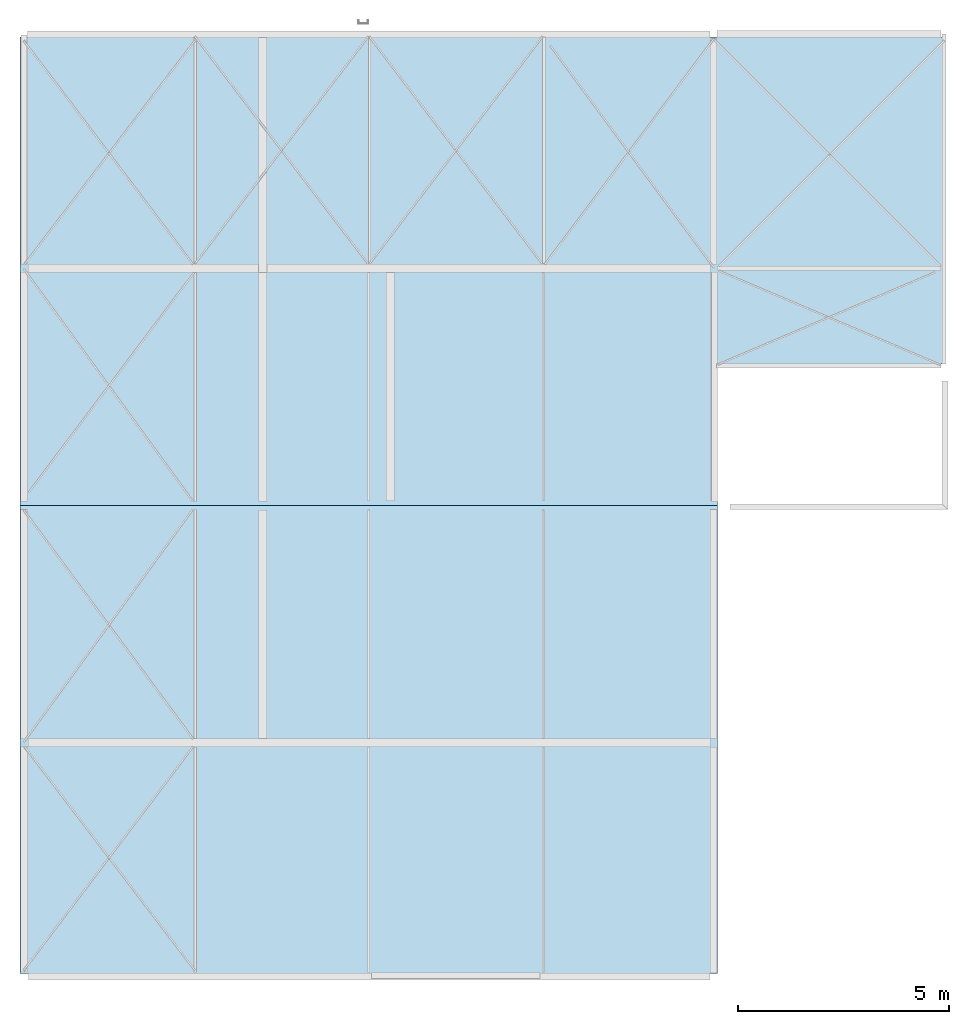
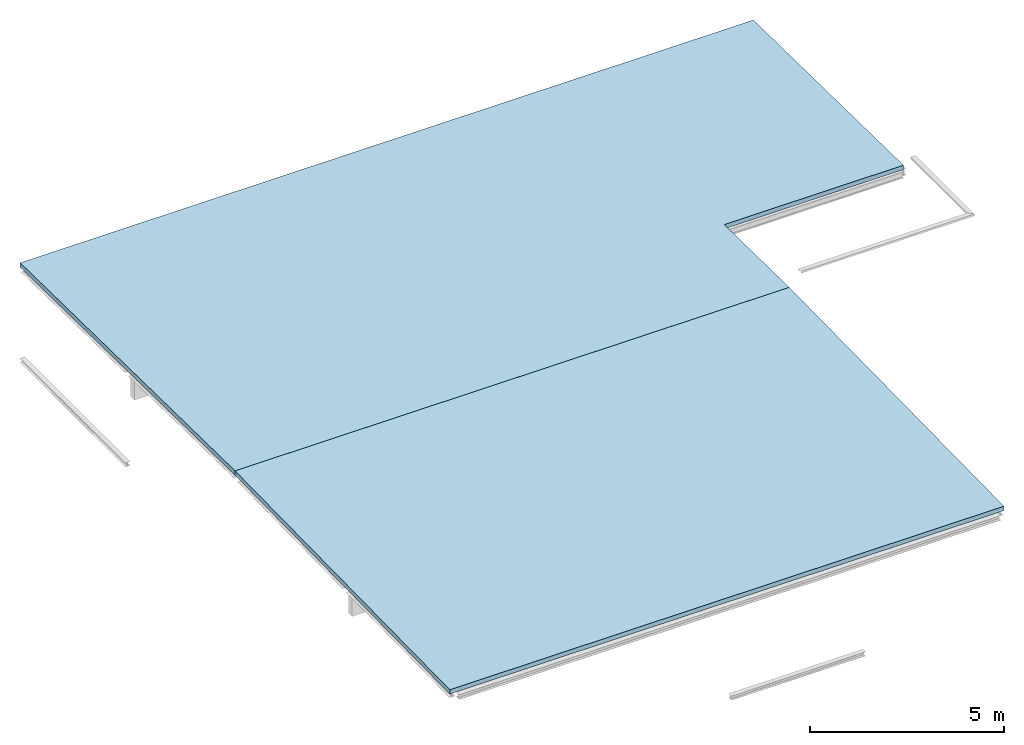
# One storey, part 5 of 5: 2 slabs.
"""IFC2X3 building model written with IfcOpenShell, lengths in millimetres."""

from ifc_helpers import new_model, entity, si_unit, converted_unit, derived_unit, direction, frame, frame_2d, origin, place, context, subcontext, project, spatial, polyline, rectangle, outline, extrude, clip, halfspace, material, layer, layer_set, layer_usage, type_object, element, save


model = new_model("IFC2X3")

# Units and contexts
model_context = context("Model", 3, precision=0.01, world=origin(), true_north=direction((6.123031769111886e-17, 1.0)))
plan_context = context("Plan", 3, precision=0.01, world=origin(), true_north=direction((6.123031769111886e-17, 1.0)))
body_context = subcontext(model_context, "Body", "Model", "MODEL_VIEW")
ifc_project = project(units=[si_unit("LENGTHUNIT", "METRE", prefix="MILLI"), si_unit("AREAUNIT", "SQUARE_METRE"), si_unit("VOLUMEUNIT", "CUBIC_METRE"), converted_unit("PLANEANGLEUNIT", "DEGREE", entity("IfcPlaneAngleMeasure", 0.017453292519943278), si_unit("PLANEANGLEUNIT", "RADIAN"), dimensions=[0, 0, 0, 0, 0, 0, 0]), si_unit("MASSUNIT", "GRAM", prefix="KILO"), derived_unit("MASSDENSITYUNIT", [(si_unit("MASSUNIT", "GRAM", prefix="KILO"), 1), (si_unit("LENGTHUNIT", "METRE"), -3)]), derived_unit("IONCONCENTRATIONUNIT", [(si_unit("MASSUNIT", "GRAM", prefix="KILO"), 1), (si_unit("LENGTHUNIT", "METRE"), -3)]), derived_unit("MOMENTOFINERTIAUNIT", [(si_unit("LENGTHUNIT", "METRE"), 4)]), si_unit("TIMEUNIT", "SECOND"), si_unit("FREQUENCYUNIT", "HERTZ"), si_unit("THERMODYNAMICTEMPERATUREUNIT", "DEGREE_CELSIUS"), derived_unit("THERMALTRANSMITTANCEUNIT", [(si_unit("MASSUNIT", "GRAM", prefix="KILO"), 1), (si_unit("THERMODYNAMICTEMPERATUREUNIT", "KELVIN"), -1), (si_unit("TIMEUNIT", "SECOND"), -3)]), derived_unit("THERMALCONDUCTANCEUNIT", [(si_unit("MASSUNIT", "GRAM", prefix="KILO"), 1), (si_unit("THERMODYNAMICTEMPERATUREUNIT", "KELVIN"), -1), (si_unit("TIMEUNIT", "SECOND"), -3), (si_unit("LENGTHUNIT", "METRE"), 1)]), derived_unit("VOLUMETRICFLOWRATEUNIT", [(si_unit("LENGTHUNIT", "METRE", prefix="DECI"), 3), (si_unit("TIMEUNIT", "SECOND"), -1)]), derived_unit("MASSFLOWRATEUNIT", [(si_unit("MASSUNIT", "GRAM", prefix="KILO"), 1), (si_unit("TIMEUNIT", "SECOND"), -1)]), derived_unit("ROTATIONALFREQUENCYUNIT", [(si_unit("TIMEUNIT", "SECOND"), -1)]), si_unit("ELECTRICCURRENTUNIT", "AMPERE"), si_unit("ELECTRICVOLTAGEUNIT", "VOLT"), si_unit("POWERUNIT", "WATT"), si_unit("FORCEUNIT", "NEWTON", prefix="KILO"), si_unit("ILLUMINANCEUNIT", "LUX"), si_unit("LUMINOUSFLUXUNIT", "LUMEN"), si_unit("LUMINOUSINTENSITYUNIT", "CANDELA"), si_unit("ENERGYUNIT", "JOULE"), derived_unit("USERDEFINED", [(si_unit("MASSUNIT", "GRAM", prefix="KILO"), -1), (si_unit("LENGTHUNIT", "METRE"), -2), (si_unit("TIMEUNIT", "SECOND"), 3), (si_unit("LUMINOUSFLUXUNIT", "LUMEN"), 1)]), derived_unit("USERDEFINED", [(si_unit("MASSUNIT", "GRAM", prefix="KILO"), 1), (si_unit("TIMEUNIT", "SECOND"), -3), (si_unit("LENGTHUNIT", "METRE"), 3), (si_unit("ELECTRICCURRENTUNIT", "AMPERE"), -2)]), derived_unit("SOUNDPOWERUNIT", [(si_unit("MASSUNIT", "GRAM", prefix="KILO"), 1), (si_unit("TIMEUNIT", "SECOND"), -3), (si_unit("LENGTHUNIT", "METRE"), 2)]), derived_unit("SOUNDPRESSUREUNIT", [(si_unit("MASSUNIT", "GRAM", prefix="KILO"), 1), (si_unit("LENGTHUNIT", "METRE"), -1), (si_unit("TIMEUNIT", "SECOND"), -2)]), derived_unit("LINEARVELOCITYUNIT", [(si_unit("LENGTHUNIT", "METRE"), 1), (si_unit("TIMEUNIT", "SECOND"), -1)]), si_unit("PRESSUREUNIT", "PASCAL"), derived_unit("USERDEFINED", [(si_unit("MASSUNIT", "GRAM", prefix="KILO"), 1), (si_unit("LENGTHUNIT", "METRE"), -2), (si_unit("TIMEUNIT", "SECOND"), -2)]), derived_unit("LINEARFORCEUNIT", [(si_unit("MASSUNIT", "GRAM", prefix="KILO"), 1), (si_unit("TIMEUNIT", "SECOND"), -2)]), derived_unit("PLANARFORCEUNIT", [(si_unit("MASSUNIT", "GRAM", prefix="KILO"), 1), (si_unit("LENGTHUNIT", "METRE"), -1), (si_unit("TIMEUNIT", "SECOND"), -2)]), derived_unit("SPECIFICHEATCAPACITYUNIT", [(si_unit("THERMODYNAMICTEMPERATUREUNIT", "KELVIN"), -1), (si_unit("LENGTHUNIT", "METRE"), 2), (si_unit("TIMEUNIT", "SECOND"), -2)]), derived_unit("HEATFLUXDENSITYUNIT", [(si_unit("MASSUNIT", "GRAM", prefix="KILO"), 1), (si_unit("TIMEUNIT", "SECOND"), -3)]), derived_unit("HEATINGVALUEUNIT", [(si_unit("LENGTHUNIT", "METRE"), 2), (si_unit("TIMEUNIT", "SECOND"), -2)]), derived_unit("VAPORPERMEABILITYUNIT", [(si_unit("LENGTHUNIT", "METRE"), -1), (si_unit("TIMEUNIT", "SECOND"), 1)]), derived_unit("DYNAMICVISCOSITYUNIT", [(si_unit("MASSUNIT", "GRAM", prefix="KILO"), 1), (si_unit("TIMEUNIT", "SECOND"), -1), (si_unit("LENGTHUNIT", "METRE"), -1)]), derived_unit("THERMALEXPANSIONCOEFFICIENTUNIT", [(si_unit("THERMODYNAMICTEMPERATUREUNIT", "KELVIN"), -1)]), derived_unit("MODULUSOFELASTICITYUNIT", [(si_unit("MASSUNIT", "GRAM", prefix="KILO"), 1), (si_unit("LENGTHUNIT", "METRE"), -1), (si_unit("TIMEUNIT", "SECOND"), -2)]), derived_unit("ISOTHERMALMOISTURECAPACITYUNIT", [(si_unit("MASSUNIT", "GRAM", prefix="KILO"), -1), (si_unit("LENGTHUNIT", "METRE"), 3)]), derived_unit("MOISTUREDIFFUSIVITYUNIT", [(si_unit("TIMEUNIT", "SECOND"), -1), (si_unit("LENGTHUNIT", "METRE"), 2)]), derived_unit("MASSPERLENGTHUNIT", [(si_unit("MASSUNIT", "GRAM", prefix="KILO"), 1), (si_unit("LENGTHUNIT", "METRE"), -1)]), derived_unit("THERMALRESISTANCEUNIT", [(si_unit("MASSUNIT", "GRAM", prefix="KILO"), -1), (si_unit("TIMEUNIT", "SECOND"), 3), (si_unit("THERMODYNAMICTEMPERATUREUNIT", "KELVIN"), 1)]), derived_unit("ACCELERATIONUNIT", [(si_unit("LENGTHUNIT", "METRE"), 1), (si_unit("TIMEUNIT", "SECOND"), -2)]), derived_unit("ANGULARVELOCITYUNIT", [(si_unit("TIMEUNIT", "SECOND"), -1), (si_unit("PLANEANGLEUNIT", "RADIAN"), 1)]), derived_unit("LINEARSTIFFNESSUNIT", [(si_unit("MASSUNIT", "GRAM", prefix="KILO"), 1), (si_unit("TIMEUNIT", "SECOND"), -2)]), derived_unit("WARPINGCONSTANTUNIT", [(si_unit("LENGTHUNIT", "METRE"), 6)]), derived_unit("LINEARMOMENTUNIT", [(si_unit("MASSUNIT", "GRAM", prefix="KILO"), 1), (si_unit("LENGTHUNIT", "METRE"), 1), (si_unit("TIMEUNIT", "SECOND"), -2)]), derived_unit("TORQUEUNIT", [(si_unit("MASSUNIT", "GRAM", prefix="KILO"), 1), (si_unit("LENGTHUNIT", "METRE"), 2), (si_unit("TIMEUNIT", "SECOND"), -2)])], contexts=[model_context, plan_context])

# Site, building, storey
site_placement = place(None, origin())
site = spatial("IfcSite", under=ifc_project, at=site_placement, Name="Default", CompositionType="ELEMENT")
building_placement = place(site_placement, origin())
building = spatial("IfcBuilding", under=site, at=building_placement, CompositionType="ELEMENT")
storey_placement = place(building_placement, frame((0.0, 0.0, 6700.0)))
storey = spatial("IfcBuildingStorey", under=building, at=storey_placement, Name="02 tweede verdieping", CompositionType="ELEMENT", Elevation=6700.000000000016)

# Slabs
ifc_material = material(Name="Metal Deck")
ifc_layer = layer(ifc_material, 137.0)
ifc_layer_set = layer_set([ifc_layer], Name="Floor:23.21.41_staalplaat 137")
ifc_layer_usage_1 = layer_usage(ifc_layer_set, "AXIS3", "POSITIVE", 0.0)
slab_type = type_object("IfcSlabType", Name="Floor:23.21.41_staalplaat 137", PredefinedType="FLOOR", material=ifc_layer_set)
slab_1_placement = place(storey_placement, origin())
element("IfcSlab", 1, at=slab_1_placement, inside=storey, type_object=slab_type, material=ifc_layer_usage_1, Name="Floor:23.21.41_staalplaat 137", ObjectType="Floor:23.21.41_staalplaat 137", PredefinedType="FLOOR", context=body_context, shape_type="SweptSolid", body=[
    clip(clip(extrude(outline(polyline([(-4817.2610659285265, -12793.33333333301), (6284.108654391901, -12793.33333333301), (6284.108654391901, 9066.666666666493), (-1466.8475884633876, 9066.666666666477), (-1466.8475884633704, 3726.6666666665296), (-4817.2610659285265, 3726.6666666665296), (-4817.2610659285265, -12793.33333333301)])), frame((46859.52627068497, 32309.337112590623, 235.723392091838), z_axis=(0.0, -0.01570731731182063, -0.9998766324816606), x_axis=(0.0, 0.9998766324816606, -0.01570731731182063)), (0.01570731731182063, 0.0, 0.9998766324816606), 137.03380895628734), halfspace(frame((50586.1929373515, 27492.670340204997, 174.37273679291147), z_axis=(0.0, -0.015707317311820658, -0.9998766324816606), x_axis=(0.0, -0.9998766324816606, 0.015707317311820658)), False)), halfspace(frame((50586.1929373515, 27492.670340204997, 311.38964022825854), z_axis=(0.0, 0.015707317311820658, 0.9998766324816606), x_axis=(0.0, 0.9998766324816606, -0.015707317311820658)), False)),
])
ifc_layer_usage_2 = layer_usage(ifc_layer_set, "AXIS3", "POSITIVE", 0.0)
slab_2_placement = place(storey_placement, origin())
element("IfcSlab", 2, at=slab_2_placement, inside=storey, type_object=slab_type, material=ifc_layer_usage_2, Name="Floor:23.21.41_staalplaat 137", ObjectType="Floor:23.21.41_staalplaat 137", PredefinedType="FLOOR", context=body_context, shape_type="SweptSolid", body=[
    clip(clip(extrude(rectangle(XDim=11091.368191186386, YDim=16521.99999999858, at=frame_2d((0.0, -6.366462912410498e-12), x_axis=(1.0, 0.0))), frame((42325.19293735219, 21947.67040189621, 224.12472323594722), z_axis=(0.0, 0.015707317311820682, -0.9998766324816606), x_axis=(0.0, 0.9998766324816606, 0.015707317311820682)), (-0.015707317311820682, 0.0, 0.9998766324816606), 137.0338089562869), halfspace(frame((50586.192937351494, 27492.670340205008, 174.21563960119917), z_axis=(0.0, 0.015707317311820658, -0.9998766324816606), x_axis=(0.0, 0.9998766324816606, 0.015707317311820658)), False)), halfspace(frame((50586.192937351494, 27492.670340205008, 311.23254303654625), z_axis=(0.0, -0.015707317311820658, 0.9998766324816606), x_axis=(0.0, -0.9998766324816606, -0.015707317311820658)), False)),
])

save(model, "model.ifc")
